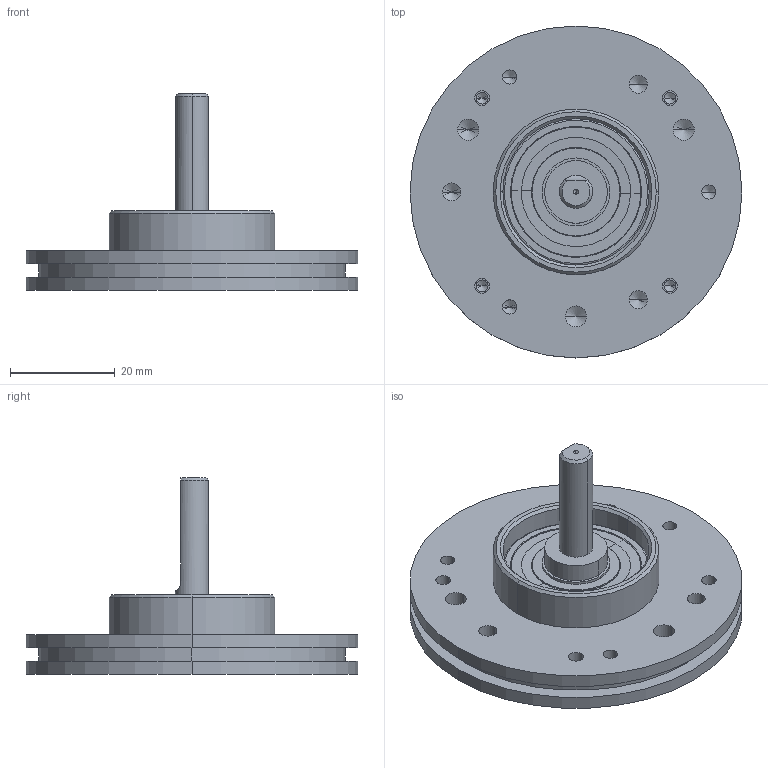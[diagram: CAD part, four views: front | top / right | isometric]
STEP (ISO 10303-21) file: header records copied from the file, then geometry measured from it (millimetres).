
FILE_DESCRIPTION (( 'STEP AP214' ), '1' );
FILE_NAME ('Drawing-MCD-B4F0-Q3A-N.STEP', '2016-02-02T08:03:40', ( '' ), ( '' ), 'SwSTEP 2.0', 'SolidWorks 2015', '' );
FILE_SCHEMA (( 'AUTOMOTIVE_DESIGN' ));
Length unit declared in the file: millimetre
Products named in the file (1): Drawing-MCD-B4F0-Q3A-N
Bounding box: 63.5 x 63.5 x 37.64 mm (x, y, z)
Volume: 25011.1 mm3; surface area: 16739.1 mm2
Topology: 13 solids, 14 shells, 198 faces, 449 edges, 260 vertices
Faces by surface type: cylinder 83, cone 48, torus 26, plane 25, sphere 16
Entity records: 7407 total; most frequent: DIRECTION 1015, CARTESIAN_POINT 852, ORIENTED_EDGE 758, AXIS2_PLACEMENT_3D 441, EDGE_CURVE 379, CIRCLE 242, VERTEX_POINT 236, EDGE_LOOP 233
